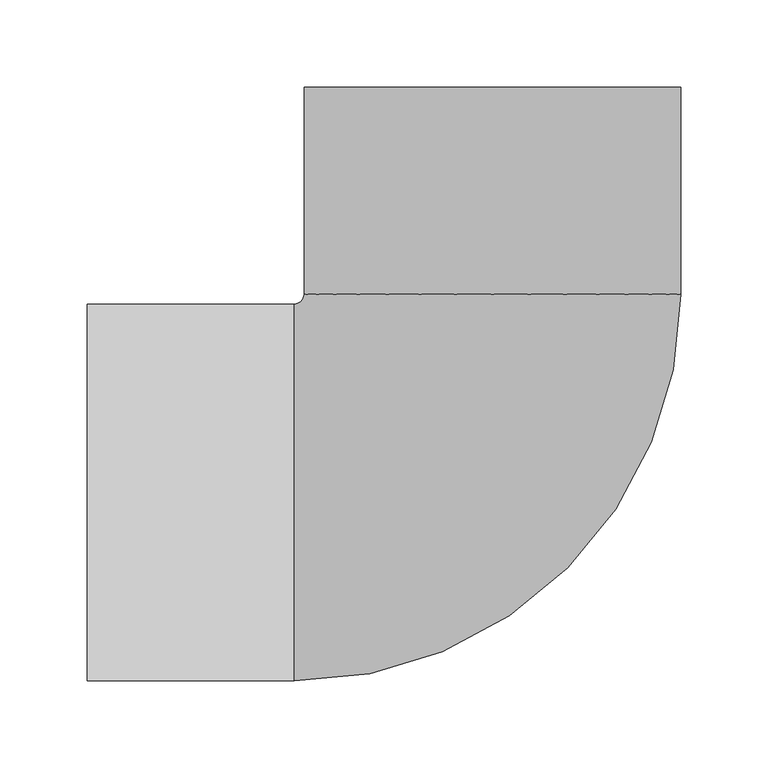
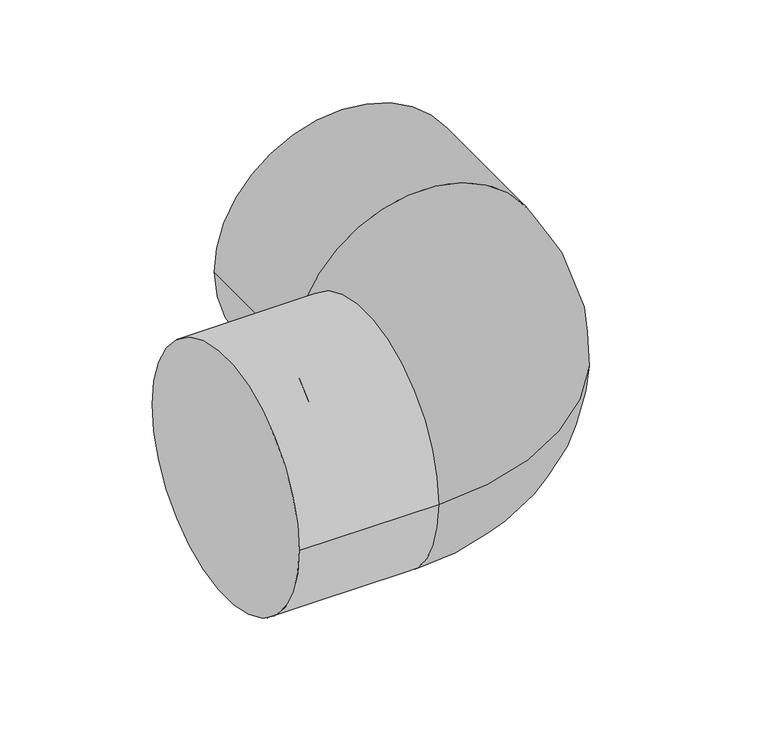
"""IFC4 building model written with IfcOpenShell, lengths in millimetres: pipe fitting geometry, 01051001 : Codos 90º."""

from ifc_helpers import new_model, si_unit, point, frame, origin, place, context, project, spatial, circle_curve, ellipse_curve, trimmed, source, transform, mapped, element, save
from ifc_brep_helpers import plane_surface, cylinder_surface, revolved_surface, advanced_brep


def pipe_fitting_bed881e2(model_context):
    return source(origin(), model_context, "Body", "AdvancedBrep", [
        advanced_brep(
        [(-114.0, -108.3, 0.0), (108.3, 114.0, 0.0), (-108.3, 114.0, 0.0), (-114.0, 108.3, 0.0), (-108.3, 233.0, 0.0), (108.3, 233.0, 0.0), (-233.0, 108.3, 0.0), (-233.0, -108.3, 0.0)],
        [
            (0, 1, circle_curve(frame((-114.0, 114.0, 0.0), z_axis=(0.0, 0.0, 1.0), x_axis=(1.0, 0.0, 0.0)), 222.3)),
            (1, 2, circle_curve(frame((0.0, 114.0, 0.0), z_axis=(0.0, -1.0, 0.0), x_axis=(1.0, 0.0, 0.0)), 108.3)),
            (2, 3, circle_curve(frame((-114.0, 114.0, 0.0), z_axis=(0.0, 0.0, -1.0), x_axis=(1.0, 0.0, 0.0)), 5.7)),
            (3, 0, circle_curve(frame((-114.0, 0.0, 0.0), z_axis=(1.0, 0.0, 0.0), x_axis=(0.0, -1.0, 0.0)), 108.3)),
            (2, 1, circle_curve(frame((0.0, 114.0, 0.0), z_axis=(0.0, -1.0, 0.0), x_axis=(1.0, 0.0, 0.0)), 108.3)),
            (0, 3, circle_curve(frame((-114.0, 0.0, 0.0), z_axis=(1.0, 0.0, 0.0), x_axis=(0.0, -1.0, 0.0)), 108.3)),
            (4, 5, circle_curve(frame((0.0, 233.0, 0.0), z_axis=(0.0, 1.0, 0.0), x_axis=(1.0, 0.0, 0.0)), 108.3)),
            (5, 4, circle_curve(frame((0.0, 233.0, 0.0), z_axis=(0.0, 1.0, 0.0), x_axis=(1.0, 0.0, 0.0)), 108.3)),
            (4, 2),
            (1, 5),
            (6, 7, circle_curve(frame((-233.0, 0.0, 0.0), z_axis=(-1.0, 0.0, 0.0), x_axis=(0.0, -1.0, 0.0)), 108.3)),
            (7, 6, circle_curve(frame((-233.0, 0.0, 0.0), z_axis=(-1.0, 0.0, 0.0), x_axis=(0.0, -1.0, 0.0)), 108.3)),
            (3, 6),
            (7, 0),
        ],
        [
            revolved_surface(trimmed(ellipse_curve(frame((0.0, 114.0, 0.0), z_axis=(0.0, 1.0, 0.0), x_axis=(1.0, 0.0, 0.0)), 108.3, 108.3), [point((-108.3, 114.0, 0.0))], [point((108.3, 114.0, 0.0))], True, "CARTESIAN"), (-114.0, 114.0, 0.0), (0.0, 0.0, -1.0)),
            revolved_surface(trimmed(ellipse_curve(frame((0.0, 114.0, 0.0), z_axis=(0.0, 1.0, 0.0), x_axis=(1.0, 0.0, 0.0)), 108.3, 108.3), [point((108.3, 114.0, 0.0))], [point((-108.3, 114.0, 0.0))], True, "CARTESIAN"), (-114.0, 114.0, 0.0), (0.0, 0.0, -1.0)),
            plane_surface(frame((0.0, 233.0, 0.0), z_axis=(0.0, 1.0, 0.0), x_axis=(0.0, 0.0, 1.0))),
            cylinder_surface(frame((0.0, 233.0, 0.0), z_axis=(0.0, 1.0, 0.0), x_axis=(1.0, 0.0, 0.0)), 108.3),
            plane_surface(frame((-233.0, 0.0, 0.0), z_axis=(-1.0, 0.0, 0.0), x_axis=(0.0, 0.0, 1.0))),
            cylinder_surface(frame((-114.0, 0.0, 0.0), z_axis=(1.0, 0.0, 0.0), x_axis=(0.0, -1.0, 0.0)), 108.3),
        ],
        [
            (0, [[1, 2, 3, 4]]),
            (1, [[-3, 5, -1, 6]]),
            (2, [[7, 8]]),
            (3, [[-7, 9, -2, 10]]),
            (3, [[-8, -10, -5, -9]]),
            (4, [[11, 12]]),
            (5, [[-4, 13, -12, 14]]),
            (5, [[-6, -14, -11, -13]]),
        ],
    ),
    ])


if __name__ == "__main__":
    model = new_model("IFC4")
    model_context = context("Model", 3, world=origin())
    ifc_project = project(units=[si_unit("LENGTHUNIT", "METRE", prefix="MILLI")], contexts=[model_context])
    site = spatial("IfcSite", under=ifc_project)
    building = spatial("IfcBuilding", under=site)
    placement = place(None, origin())
    pipe_fitting_shape = pipe_fitting_bed881e2(model_context)
    element("IfcPipeFitting", 1, ObjectType="01051001 : Codos 90º", at=placement, inside=building, context=model_context, shape_type="MappedRepresentation", body=[
        mapped(pipe_fitting_shape, transform((0.0, 0.0, 0.0), x_axis=(1.0, 0.0, 0.0), y_axis=(0.0, 1.0, 0.0), z_axis=(0.0, 0.0, 1.0))),
    ])
    save(model, "model.ifc")
